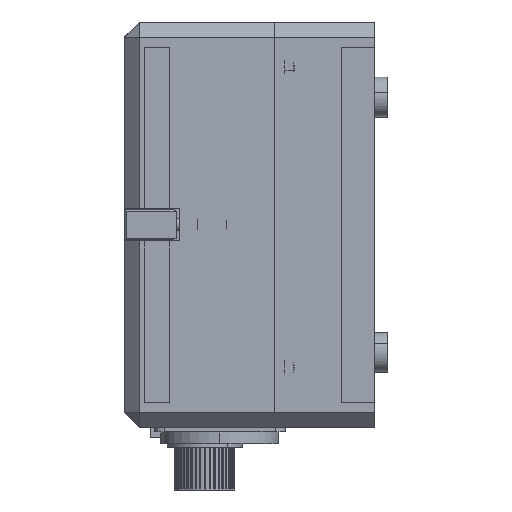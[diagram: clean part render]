
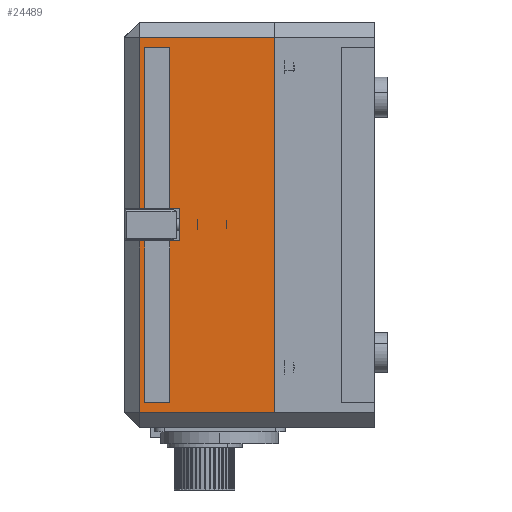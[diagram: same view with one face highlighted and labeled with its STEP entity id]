
A CAD part, left-side view. The second image highlights one B-rep face of the part: STEP entity #24489.
In plain terms, the highlighted planar face has unit normal (-1, 0, 0).
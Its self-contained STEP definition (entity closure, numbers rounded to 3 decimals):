
#53 = DIRECTION ( 'NONE',  ( 0., 0., -1. ) ) ;
#572 = EDGE_CURVE ( 'NONE', #855, #2799, #24302, .T. ) ;
#855 = VERTEX_POINT ( 'NONE', #25154 ) ;
#1765 = CARTESIAN_POINT ( 'NONE',  ( 0., 0., 37.5 ) ) ;
#2361 = DIRECTION ( 'NONE',  ( 0., 0., 1. ) ) ;
#2792 = CARTESIAN_POINT ( 'NONE',  ( 0., 21., 3.25 ) ) ;
#2799 = VERTEX_POINT ( 'NONE', #11393 ) ;
#4081 = ORIENTED_EDGE ( 'NONE', *, *, #572, .T. ) ;
#4445 = DIRECTION ( 'NONE',  ( 0., 0., 1. ) ) ;
#4740 = DIRECTION ( 'NONE',  ( 0., 1., 0. ) ) ;
#4746 = ORIENTED_EDGE ( 'NONE', *, *, #22173, .F. ) ;
#5118 = VERTEX_POINT ( 'NONE', #8665 ) ;
#5226 = DIRECTION ( 'NONE',  ( 0., 1., 0. ) ) ;
#5249 = EDGE_CURVE ( 'NONE', #5118, #27705, #6123, .T. ) ;
#5622 = CARTESIAN_POINT ( 'NONE',  ( 0., 19., -3.25 ) ) ;
#6071 = LINE ( 'NONE', #18764, #20514 ) ;
#6123 = LINE ( 'NONE', #29991, #7071 ) ;
#6402 = AXIS2_PLACEMENT_3D ( 'NONE', #18828, #24497, #53 ) ;
#6528 = CARTESIAN_POINT ( 'NONE',  ( 0., 19., 3.25 ) ) ;
#6674 = DIRECTION ( 'NONE',  ( 0., -1., 0. ) ) ;
#6816 = ORIENTED_EDGE ( 'NONE', *, *, #12257, .F. ) ;
#6877 = LINE ( 'NONE', #28350, #13768 ) ;
#7071 = VECTOR ( 'NONE', #13114, 1000. ) ;
#7601 = CARTESIAN_POINT ( 'NONE',  ( 0., 26., 35.5 ) ) ;
#7757 = VERTEX_POINT ( 'NONE', #21138 ) ;
#7803 = EDGE_CURVE ( 'NONE', #25452, #30975, #28464, .T. ) ;
#8184 = EDGE_CURVE ( 'NONE', #9366, #15298, #11404, .T. ) ;
#8324 = DIRECTION ( 'NONE',  ( 0., 0., -1. ) ) ;
#8665 = CARTESIAN_POINT ( 'NONE',  ( 0., 27., 37.5 ) ) ;
#8723 = EDGE_CURVE ( 'NONE', #25141, #30975, #25001, .T. ) ;
#8754 = LINE ( 'NONE', #6528, #8834 ) ;
#8826 = EDGE_CURVE ( 'NONE', #13803, #9366, #6877, .T. ) ;
#8834 = VECTOR ( 'NONE', #18434, 1000. ) ;
#9055 = ORIENTED_EDGE ( 'NONE', *, *, #15067, .F. ) ;
#9191 = EDGE_CURVE ( 'NONE', #25141, #5118, #23207, .T. ) ;
#9241 = DIRECTION ( 'NONE',  ( 0., -1., 0. ) ) ;
#9366 = VERTEX_POINT ( 'NONE', #16840 ) ;
#9402 = CARTESIAN_POINT ( 'NONE',  ( 0., 26., 3.25 ) ) ;
#9784 = LINE ( 'NONE', #5622, #25543 ) ;
#9883 = VECTOR ( 'NONE', #9241, 1000. ) ;
#10103 = CARTESIAN_POINT ( 'NONE',  ( 0., 21., -3.25 ) ) ;
#10444 = CARTESIAN_POINT ( 'NONE',  ( 0., 27., -37.5 ) ) ;
#10870 = LINE ( 'NONE', #22794, #28321 ) ;
#11018 = DIRECTION ( 'NONE',  ( 0., 0., -1. ) ) ;
#11393 = CARTESIAN_POINT ( 'NONE',  ( 0., 27., -3.25 ) ) ;
#11404 = LINE ( 'NONE', #26178, #23867 ) ;
#11750 = ORIENTED_EDGE ( 'NONE', *, *, #8723, .F. ) ;
#11775 = LINE ( 'NONE', #23520, #9883 ) ;
#12183 = VECTOR ( 'NONE', #6674, 1000. ) ;
#12229 = CARTESIAN_POINT ( 'NONE',  ( 0., 27., 3.25 ) ) ;
#12257 = EDGE_CURVE ( 'NONE', #15224, #14180, #8754, .T. ) ;
#12274 = EDGE_CURVE ( 'NONE', #855, #13803, #6071, .T. ) ;
#12374 = VERTEX_POINT ( 'NONE', #9402 ) ;
#12410 = ORIENTED_EDGE ( 'NONE', *, *, #12274, .F. ) ;
#13114 = DIRECTION ( 'NONE',  ( 0., 0., -1. ) ) ;
#13144 = ORIENTED_EDGE ( 'NONE', *, *, #7803, .T. ) ;
#13768 = VECTOR ( 'NONE', #30907, 1000. ) ;
#13803 = VERTEX_POINT ( 'NONE', #18262 ) ;
#14094 = EDGE_CURVE ( 'NONE', #2799, #25452, #29491, .T. ) ;
#14180 = VERTEX_POINT ( 'NONE', #2792 ) ;
#14291 = LINE ( 'NONE', #16680, #30563 ) ;
#14308 = EDGE_CURVE ( 'NONE', #14180, #7757, #14291, .T. ) ;
#14320 = ORIENTED_EDGE ( 'NONE', *, *, #14308, .F. ) ;
#15008 = DIRECTION ( 'NONE',  ( 0., 1., 0. ) ) ;
#15067 = EDGE_CURVE ( 'NONE', #17741, #15224, #19309, .T. ) ;
#15224 = VERTEX_POINT ( 'NONE', #19625 ) ;
#15298 = VERTEX_POINT ( 'NONE', #10103 ) ;
#15381 = EDGE_CURVE ( 'NONE', #21841, #12374, #10870, .T. ) ;
#15424 = CARTESIAN_POINT ( 'NONE',  ( 0., 27., 40.5 ) ) ;
#15918 = VECTOR ( 'NONE', #4740, 1000. ) ;
#16204 = DIRECTION ( 'NONE',  ( 0., 1., 0. ) ) ;
#16675 = CARTESIAN_POINT ( 'NONE',  ( 0., -20., -37.5 ) ) ;
#16680 = CARTESIAN_POINT ( 'NONE',  ( 0., 21., -35.5 ) ) ;
#16840 = CARTESIAN_POINT ( 'NONE',  ( 0., 21., -35.5 ) ) ;
#17343 = VECTOR ( 'NONE', #27678, 1000. ) ;
#17469 = CARTESIAN_POINT ( 'NONE',  ( 0., 0., 37.5 ) ) ;
#17741 = VERTEX_POINT ( 'NONE', #19638 ) ;
#17852 = EDGE_CURVE ( 'NONE', #27705, #12374, #11775, .T. ) ;
#18007 = CARTESIAN_POINT ( 'NONE',  ( 0., 0., 40.5 ) ) ;
#18136 = VECTOR ( 'NONE', #18834, 1000. ) ;
#18177 = ORIENTED_EDGE ( 'NONE', *, *, #8184, .F. ) ;
#18262 = CARTESIAN_POINT ( 'NONE',  ( 0., 26., -35.5 ) ) ;
#18434 = DIRECTION ( 'NONE',  ( 0., 1., 0. ) ) ;
#18764 = CARTESIAN_POINT ( 'NONE',  ( 0., 26., -35.5 ) ) ;
#18828 = CARTESIAN_POINT ( 'NONE',  ( 0., 0., 40.5 ) ) ;
#18834 = DIRECTION ( 'NONE',  ( 0., 0., 1. ) ) ;
#19256 = CARTESIAN_POINT ( 'NONE',  ( 0., 0., -37.5 ) ) ;
#19309 = LINE ( 'NONE', #21542, #18136 ) ;
#19625 = CARTESIAN_POINT ( 'NONE',  ( 0., 19., 3.25 ) ) ;
#19638 = CARTESIAN_POINT ( 'NONE',  ( 0., 19., -3.25 ) ) ;
#19727 = ORIENTED_EDGE ( 'NONE', *, *, #8826, .F. ) ;
#20514 = VECTOR ( 'NONE', #20837, 1000. ) ;
#20837 = DIRECTION ( 'NONE',  ( 0., 0., -1. ) ) ;
#21138 = CARTESIAN_POINT ( 'NONE',  ( 0., 21., 35.5 ) ) ;
#21542 = CARTESIAN_POINT ( 'NONE',  ( 0., 19., -3.25 ) ) ;
#21841 = VERTEX_POINT ( 'NONE', #23838 ) ;
#22173 = EDGE_CURVE ( 'NONE', #7757, #21841, #26836, .T. ) ;
#22794 = CARTESIAN_POINT ( 'NONE',  ( 0., 26., -35.5 ) ) ;
#23207 = LINE ( 'NONE', #1765, #24900 ) ;
#23520 = CARTESIAN_POINT ( 'NONE',  ( 0., 0., 3.25 ) ) ;
#23838 = CARTESIAN_POINT ( 'NONE',  ( 0., 26., 35.5 ) ) ;
#23867 = VECTOR ( 'NONE', #2361, 1000. ) ;
#24302 = LINE ( 'NONE', #29405, #28587 ) ;
#24349 = FACE_OUTER_BOUND ( 'NONE', #30395, .T. ) ;
#24489 = ADVANCED_FACE ( 'NONE', ( #24349 ), #25969, .F. ) ;
#24497 = DIRECTION ( 'NONE',  ( 1., 0., 0. ) ) ;
#24900 = VECTOR ( 'NONE', #16204, 1000. ) ;
#25001 = LINE ( 'NONE', #18007, #31036 ) ;
#25141 = VERTEX_POINT ( 'NONE', #17469 ) ;
#25154 = CARTESIAN_POINT ( 'NONE',  ( 0., 26., -3.25 ) ) ;
#25452 = VERTEX_POINT ( 'NONE', #10444 ) ;
#25543 = VECTOR ( 'NONE', #15008, 1000. ) ;
#25858 = EDGE_CURVE ( 'NONE', #17741, #15298, #9784, .T. ) ;
#25969 = PLANE ( 'NONE',  #6402 ) ;
#26076 = ORIENTED_EDGE ( 'NONE', *, *, #17852, .T. ) ;
#26178 = CARTESIAN_POINT ( 'NONE',  ( 0., 21., -35.5 ) ) ;
#26516 = ORIENTED_EDGE ( 'NONE', *, *, #5249, .T. ) ;
#26836 = LINE ( 'NONE', #7601, #15918 ) ;
#26891 = ORIENTED_EDGE ( 'NONE', *, *, #9191, .T. ) ;
#27678 = DIRECTION ( 'NONE',  ( 0., 0., -1. ) ) ;
#27705 = VERTEX_POINT ( 'NONE', #12229 ) ;
#27819 = ORIENTED_EDGE ( 'NONE', *, *, #15381, .F. ) ;
#27821 = ORIENTED_EDGE ( 'NONE', *, *, #14094, .T. ) ;
#28321 = VECTOR ( 'NONE', #8324, 1000. ) ;
#28350 = CARTESIAN_POINT ( 'NONE',  ( 0., 26., -35.5 ) ) ;
#28464 = LINE ( 'NONE', #16675, #12183 ) ;
#28587 = VECTOR ( 'NONE', #5226, 1000. ) ;
#29405 = CARTESIAN_POINT ( 'NONE',  ( 0., 0., -3.25 ) ) ;
#29491 = LINE ( 'NONE', #15424, #17343 ) ;
#29658 = ORIENTED_EDGE ( 'NONE', *, *, #25858, .T. ) ;
#29991 = CARTESIAN_POINT ( 'NONE',  ( 0., 27., 40.5 ) ) ;
#30395 = EDGE_LOOP ( 'NONE', ( #14320, #6816, #9055, #29658, #18177, #19727, #12410, #4081, #27821, #13144, #11750, #26891, #26516, #26076, #27819, #4746 ) ) ;
#30563 = VECTOR ( 'NONE', #4445, 1000. ) ;
#30907 = DIRECTION ( 'NONE',  ( 0., -1., 0. ) ) ;
#30975 = VERTEX_POINT ( 'NONE', #19256 ) ;
#31036 = VECTOR ( 'NONE', #11018, 1000. ) ;
